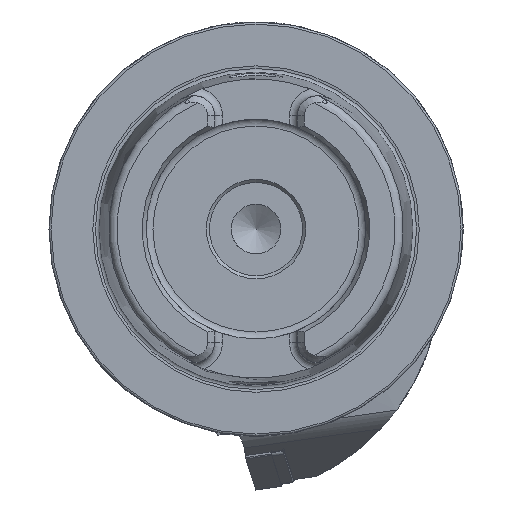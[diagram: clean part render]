
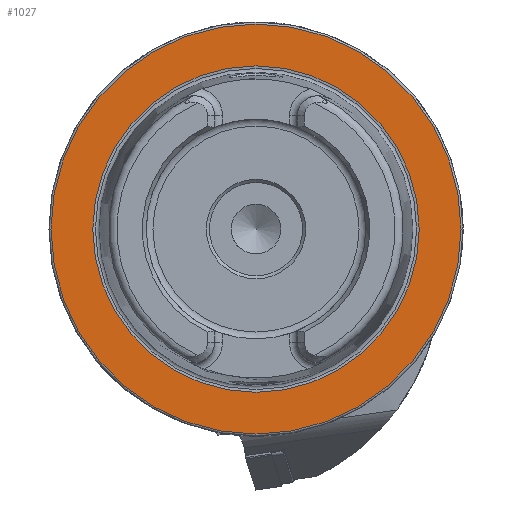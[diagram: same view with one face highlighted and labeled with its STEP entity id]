
A CAD part, left-side view. The second image highlights one B-rep face of the part: STEP entity #1027.
In plain terms, the highlighted planar face has unit normal (-1, 0, 0).
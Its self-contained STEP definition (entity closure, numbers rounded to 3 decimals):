
#831 = CIRCLE ( 'NONE', #4021, 49.5 ) ;
#1027 = ADVANCED_FACE ( 'NONE', ( #2739, #12090 ), #6225, .F. ) ;
#1212 = AXIS2_PLACEMENT_3D ( 'NONE', #6152, #6190, #7096 ) ;
#2487 = EDGE_LOOP ( 'NONE', ( #6597 ) ) ;
#2739 = FACE_BOUND ( 'NONE', #6131, .T. ) ;
#3648 = CIRCLE ( 'NONE', #4380, 39.405 ) ;
#4021 = AXIS2_PLACEMENT_3D ( 'NONE', #10421, #11240, #11279 ) ;
#4380 = AXIS2_PLACEMENT_3D ( 'NONE', #11008, #6450, #7306 ) ;
#5323 = CARTESIAN_POINT ( 'NONE',  ( 0., 0., 49.5 ) ) ;
#5583 = EDGE_CURVE ( 'NONE', #10818, #10818, #831, .T. ) ;
#6131 = EDGE_LOOP ( 'NONE', ( #11871 ) ) ;
#6152 = CARTESIAN_POINT ( 'NONE',  ( 0., 49.5, 0. ) ) ;
#6190 = DIRECTION ( 'NONE',  ( 1., 0., 0. ) ) ;
#6225 = PLANE ( 'NONE',  #1212 ) ;
#6450 = DIRECTION ( 'NONE',  ( -1., 0., 0. ) ) ;
#6597 = ORIENTED_EDGE ( 'NONE', *, *, #5583, .T. ) ;
#7096 = DIRECTION ( 'NONE',  ( 0., 0., -1. ) ) ;
#7306 = DIRECTION ( 'NONE',  ( 0., 0., 1. ) ) ;
#9360 = CARTESIAN_POINT ( 'NONE',  ( 0., 0., 39.405 ) ) ;
#9509 = VERTEX_POINT ( 'NONE', #9360 ) ;
#10421 = CARTESIAN_POINT ( 'NONE',  ( 0., 0., 0. ) ) ;
#10818 = VERTEX_POINT ( 'NONE', #5323 ) ;
#11008 = CARTESIAN_POINT ( 'NONE',  ( 0., 0., 0. ) ) ;
#11240 = DIRECTION ( 'NONE',  ( -1., 0., 0. ) ) ;
#11279 = DIRECTION ( 'NONE',  ( 0., 0., 1. ) ) ;
#11336 = EDGE_CURVE ( 'NONE', #9509, #9509, #3648, .T. ) ;
#11871 = ORIENTED_EDGE ( 'NONE', *, *, #11336, .F. ) ;
#12090 = FACE_OUTER_BOUND ( 'NONE', #2487, .T. ) ;
